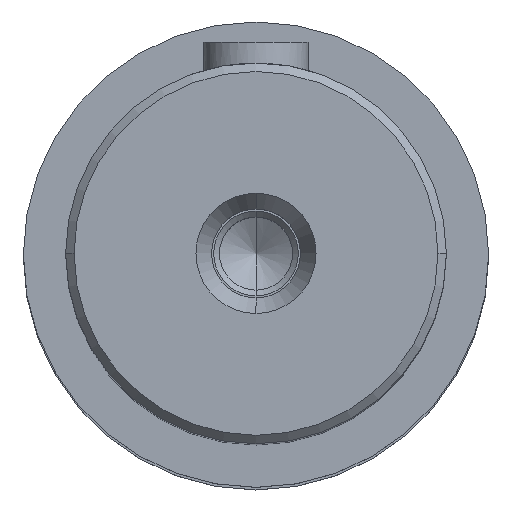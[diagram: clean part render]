
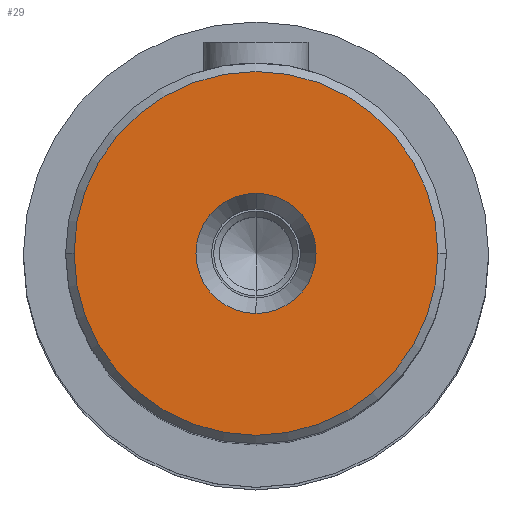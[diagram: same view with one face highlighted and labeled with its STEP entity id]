
A CAD part, top view. The second image highlights one B-rep face of the part: STEP entity #29.
In plain terms, the highlighted planar face has unit normal (0, 0, 1) as drawn and (1, 0, 0) by its records, which use the part's own axes.
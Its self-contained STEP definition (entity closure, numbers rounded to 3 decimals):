
#29=ADVANCED_FACE('',(#70,#57),#498,.T.);
#57=FACE_BOUND('',#110,.T.);
#70=FACE_OUTER_BOUND('',#109,.T.);
#109=EDGE_LOOP('',(#180,#181));
#110=EDGE_LOOP('',(#182,#183));
#180=ORIENTED_EDGE('',*,*,#288,.F.);
#181=ORIENTED_EDGE('',*,*,#291,.F.);
#182=ORIENTED_EDGE('',*,*,#337,.F.);
#183=ORIENTED_EDGE('',*,*,#310,.F.);
#288=EDGE_CURVE('',#456,#459,#347,.T.);
#291=EDGE_CURVE('',#459,#456,#349,.T.);
#310=EDGE_CURVE('',#458,#484,#358,.T.);
#337=EDGE_CURVE('',#484,#458,#373,.T.);
#347=TRIMMED_CURVE($,#383,(#1083),(#1084),.T.,.CARTESIAN.);
#349=TRIMMED_CURVE($,#385,(#1091),(#1092),.T.,.CARTESIAN.);
#358=TRIMMED_CURVE($,#394,(#1138),(#1139),.T.,.CARTESIAN.);
#373=TRIMMED_CURVE($,#409,(#1207),(#1208),.T.,.CARTESIAN.);
#383=CIRCLE('',#731,43.);
#385=CIRCLE('',#733,43.);
#394=CIRCLE('',#742,14.2);
#409=CIRCLE('',#757,14.2);
#456=VERTEX_POINT('',#988);
#458=VERTEX_POINT('',#990);
#459=VERTEX_POINT('',#991);
#484=VERTEX_POINT('',#1016);
#498=PLANE('',#706);
#706=AXIS2_PLACEMENT_3D('',#888,#774,$);
#731=AXIS2_PLACEMENT_3D($,#1082,#808,#809);
#733=AXIS2_PLACEMENT_3D($,#1090,#812,#813);
#742=AXIS2_PLACEMENT_3D($,#1137,#830,#831);
#757=AXIS2_PLACEMENT_3D($,#1206,#860,#861);
#774=DIRECTION('',(1.,0.,0.));
#808=DIRECTION('',(-1.,0.,0.));
#809=DIRECTION('',(0.,0.,1.));
#812=DIRECTION('',(-1.,0.,0.));
#813=DIRECTION('',(0.,0.,-1.));
#830=DIRECTION('',(1.,0.,0.));
#831=DIRECTION('',(0.,1.,0.));
#860=DIRECTION('',(1.,0.,0.));
#861=DIRECTION('',(0.,-1.,0.));
#888=CARTESIAN_POINT('',(351.5,-51.66,-51.66));
#988=CARTESIAN_POINT('',(351.5,0.,43.));
#990=CARTESIAN_POINT('',(351.5,14.2,0.));
#991=CARTESIAN_POINT('',(351.5,0.,-43.));
#1016=CARTESIAN_POINT('',(351.5,-14.2,0.));
#1082=CARTESIAN_POINT('',(351.5,0.,0.));
#1083=CARTESIAN_POINT('',(351.5,0.,43.));
#1084=CARTESIAN_POINT('',(351.5,0.,-43.));
#1090=CARTESIAN_POINT('',(351.5,0.,0.));
#1091=CARTESIAN_POINT('',(351.5,0.,-43.));
#1092=CARTESIAN_POINT('',(351.5,0.,43.));
#1137=CARTESIAN_POINT('',(351.5,0.,0.));
#1138=CARTESIAN_POINT('',(351.5,14.2,0.));
#1139=CARTESIAN_POINT('',(351.5,-14.2,0.));
#1206=CARTESIAN_POINT('',(351.5,0.,0.));
#1207=CARTESIAN_POINT('',(351.5,-14.2,0.));
#1208=CARTESIAN_POINT('',(351.5,14.2,0.));
